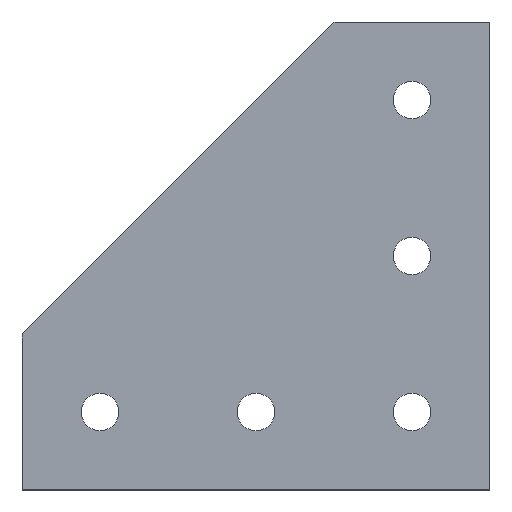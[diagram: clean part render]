
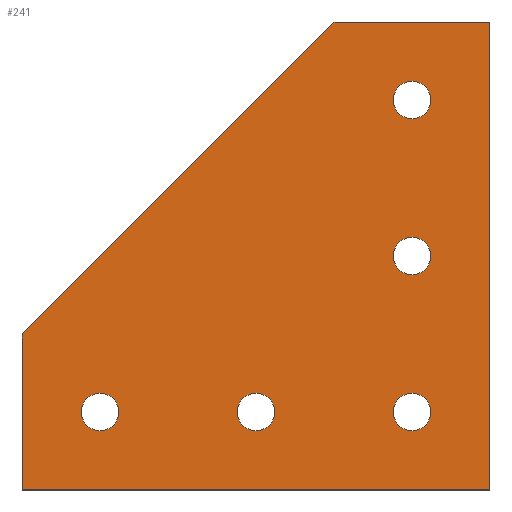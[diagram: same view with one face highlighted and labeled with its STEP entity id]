
A CAD part, top view. The second image highlights one B-rep face of the part: STEP entity #241.
In plain terms, the highlighted planar face has unit normal (0, 0, 1).
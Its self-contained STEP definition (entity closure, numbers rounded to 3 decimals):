
#15=FACE_BOUND('',#55,.T.);
#16=FACE_BOUND('',#56,.T.);
#17=FACE_BOUND('',#57,.T.);
#18=FACE_BOUND('',#58,.T.);
#19=FACE_BOUND('',#59,.T.);
#30=PLANE('',#277);
#42=FACE_OUTER_BOUND('',#54,.T.);
#54=EDGE_LOOP('',(#206,#207,#208,#209,#210));
#55=EDGE_LOOP('',(#211));
#56=EDGE_LOOP('',(#212));
#57=EDGE_LOOP('',(#213));
#58=EDGE_LOOP('',(#214));
#59=EDGE_LOOP('',(#215));
#73=LINE('',#383,#93);
#76=LINE('',#389,#96);
#79=LINE('',#395,#99);
#82=LINE('',#401,#102);
#85=LINE('',#405,#105);
#93=VECTOR('',#320,10.);
#96=VECTOR('',#325,10.);
#99=VECTOR('',#330,10.);
#102=VECTOR('',#335,10.);
#105=VECTOR('',#340,10.);
#106=CIRCLE('',#258,3.6);
#108=CIRCLE('',#261,3.6);
#110=CIRCLE('',#264,3.6);
#112=CIRCLE('',#267,3.6);
#114=CIRCLE('',#270,3.6);
#116=VERTEX_POINT('',#347);
#118=VERTEX_POINT('',#353);
#120=VERTEX_POINT('',#359);
#122=VERTEX_POINT('',#365);
#124=VERTEX_POINT('',#371);
#128=VERTEX_POINT('',#380);
#129=VERTEX_POINT('',#382);
#131=VERTEX_POINT('',#388);
#133=VERTEX_POINT('',#394);
#135=VERTEX_POINT('',#400);
#136=EDGE_CURVE('',#116,#116,#106,.T.);
#139=EDGE_CURVE('',#118,#118,#108,.T.);
#142=EDGE_CURVE('',#120,#120,#110,.T.);
#145=EDGE_CURVE('',#122,#122,#112,.T.);
#148=EDGE_CURVE('',#124,#124,#114,.T.);
#153=EDGE_CURVE('',#129,#128,#73,.T.);
#156=EDGE_CURVE('',#131,#129,#76,.T.);
#159=EDGE_CURVE('',#133,#131,#79,.T.);
#162=EDGE_CURVE('',#135,#133,#82,.T.);
#165=EDGE_CURVE('',#128,#135,#85,.T.);
#206=ORIENTED_EDGE('',*,*,#165,.T.);
#207=ORIENTED_EDGE('',*,*,#162,.T.);
#208=ORIENTED_EDGE('',*,*,#159,.T.);
#209=ORIENTED_EDGE('',*,*,#156,.T.);
#210=ORIENTED_EDGE('',*,*,#153,.T.);
#211=ORIENTED_EDGE('',*,*,#148,.T.);
#212=ORIENTED_EDGE('',*,*,#145,.T.);
#213=ORIENTED_EDGE('',*,*,#142,.T.);
#214=ORIENTED_EDGE('',*,*,#139,.T.);
#215=ORIENTED_EDGE('',*,*,#136,.T.);
#241=ADVANCED_FACE('',(#42,#15,#16,#17,#18,#19),#30,.T.);
#258=AXIS2_PLACEMENT_3D('',#348,#283,#284);
#261=AXIS2_PLACEMENT_3D('',#354,#290,#291);
#264=AXIS2_PLACEMENT_3D('',#360,#297,#298);
#267=AXIS2_PLACEMENT_3D('',#366,#304,#305);
#270=AXIS2_PLACEMENT_3D('',#372,#311,#312);
#277=AXIS2_PLACEMENT_3D('',#406,#341,#342);
#283=DIRECTION('center_axis',(0.,0.,-1.));
#284=DIRECTION('ref_axis',(1.,0.,0.));
#290=DIRECTION('center_axis',(0.,0.,-1.));
#291=DIRECTION('ref_axis',(1.,0.,0.));
#297=DIRECTION('center_axis',(0.,0.,-1.));
#298=DIRECTION('ref_axis',(1.,0.,0.));
#304=DIRECTION('center_axis',(0.,0.,-1.));
#305=DIRECTION('ref_axis',(1.,0.,0.));
#311=DIRECTION('center_axis',(0.,0.,-1.));
#312=DIRECTION('ref_axis',(1.,0.,0.));
#320=DIRECTION('',(-0.707,-0.707,0.));
#325=DIRECTION('',(-1.,0.,0.));
#330=DIRECTION('',(0.,1.,0.));
#335=DIRECTION('',(1.,0.,0.));
#340=DIRECTION('',(0.,-1.,0.));
#341=DIRECTION('center_axis',(0.,0.,1.));
#342=DIRECTION('ref_axis',(1.,0.,0.));
#347=CARTESIAN_POINT('',(11.4,15.,4.));
#348=CARTESIAN_POINT('Origin',(15.,15.,4.));
#353=CARTESIAN_POINT('',(71.4,75.,4.));
#354=CARTESIAN_POINT('Origin',(75.,75.,4.));
#359=CARTESIAN_POINT('',(41.4,15.,4.));
#360=CARTESIAN_POINT('Origin',(45.,15.,4.));
#365=CARTESIAN_POINT('',(71.4,45.,4.));
#366=CARTESIAN_POINT('Origin',(75.,45.,4.));
#371=CARTESIAN_POINT('',(71.4,15.,4.));
#372=CARTESIAN_POINT('Origin',(75.,15.,4.));
#380=CARTESIAN_POINT('',(0.,30.,4.));
#382=CARTESIAN_POINT('',(60.,90.,4.));
#383=CARTESIAN_POINT('',(60.,90.,4.));
#388=CARTESIAN_POINT('',(90.,90.,4.));
#389=CARTESIAN_POINT('',(90.,90.,4.));
#394=CARTESIAN_POINT('',(90.,0.,4.));
#395=CARTESIAN_POINT('',(90.,0.,4.));
#400=CARTESIAN_POINT('',(0.,0.,4.));
#401=CARTESIAN_POINT('',(0.,0.,4.));
#405=CARTESIAN_POINT('',(0.,30.,4.));
#406=CARTESIAN_POINT('Origin',(45.,45.,4.));
